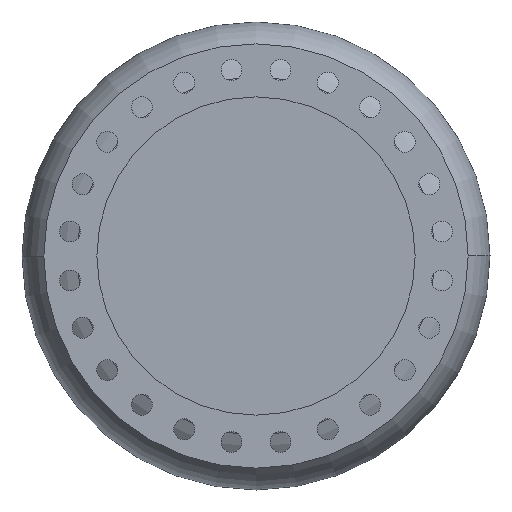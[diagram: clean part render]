
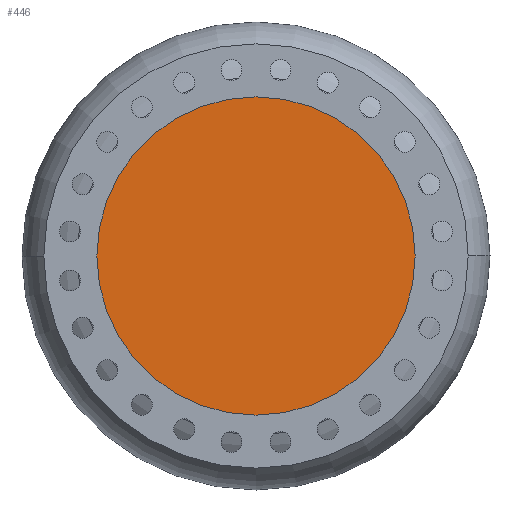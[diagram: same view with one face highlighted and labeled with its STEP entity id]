
A CAD part, left-side view. The second image highlights one B-rep face of the part: STEP entity #446.
In plain terms, the highlighted planar face has unit normal (-1, 0, 0).
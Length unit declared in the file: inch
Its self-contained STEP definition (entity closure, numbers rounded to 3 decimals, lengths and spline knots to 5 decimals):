
#446 = ADVANCED_FACE ( 'Defeatured_0_15', ( #3408 ), #1799, .F. ) ;
#872 = CARTESIAN_POINT ( 'NONE',  ( -24.33, -10.5, 0. ) ) ;
#938 = CIRCLE ( 'NONE', #3134, 10.5 ) ;
#1131 = DIRECTION ( 'NONE',  ( 0., 1., 0. ) ) ;
#1134 = DIRECTION ( 'NONE',  ( 1., 0., 0. ) ) ;
#1141 = CARTESIAN_POINT ( 'NONE',  ( -24.33, 0., 0. ) ) ;
#1322 = VERTEX_POINT ( 'NONE', #3619 ) ;
#1359 = CIRCLE ( 'NONE', #3937, 10.5 ) ;
#1781 = DIRECTION ( 'NONE',  ( 0., 1., 0. ) ) ;
#1799 = PLANE ( 'NONE',  #4250 ) ;
#1805 = DIRECTION ( 'NONE',  ( 1., 0., 0. ) ) ;
#2021 = EDGE_CURVE ( 'Defeatured_0_16+Defeatured_0_15+Defeatured_0_15+Defeatured_0_15', #1322, #3431, #938, .T. ) ;
#2276 = CARTESIAN_POINT ( 'NONE',  ( -24.33, 10.5, 0. ) ) ;
#3134 = AXIS2_PLACEMENT_3D ( 'NONE', #1141, #1134, #1131 ) ;
#3336 = ORIENTED_EDGE ( 'NONE', *, *, #2021, .F. ) ;
#3408 = FACE_OUTER_BOUND ( 'NONE', #4092, .T. ) ;
#3431 = VERTEX_POINT ( 'NONE', #872 ) ;
#3619 = CARTESIAN_POINT ( 'NONE',  ( -24.33, 10.5, 0. ) ) ;
#3639 = ORIENTED_EDGE ( 'NONE', *, *, #4405, .F. ) ;
#3713 = DIRECTION ( 'NONE',  ( 0., 1., 0. ) ) ;
#3742 = DIRECTION ( 'NONE',  ( 1., 0., 0. ) ) ;
#3751 = CARTESIAN_POINT ( 'NONE',  ( -24.33, 0., 0. ) ) ;
#3937 = AXIS2_PLACEMENT_3D ( 'NONE', #3751, #3742, #3713 ) ;
#4092 = EDGE_LOOP ( 'NONE', ( #3336, #3639 ) ) ;
#4250 = AXIS2_PLACEMENT_3D ( 'NONE', #2276, #1805, #1781 ) ;
#4405 = EDGE_CURVE ( 'Defeatured_0_16+Defeatured_0_15+Defeatured_0_15+Defeatured_0_15', #3431, #1322, #1359, .T. ) ;
